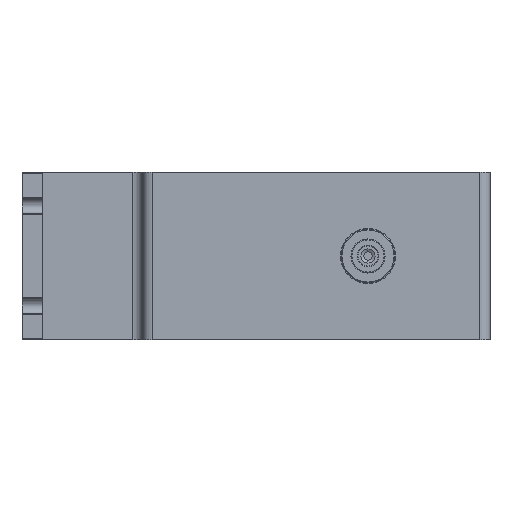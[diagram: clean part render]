
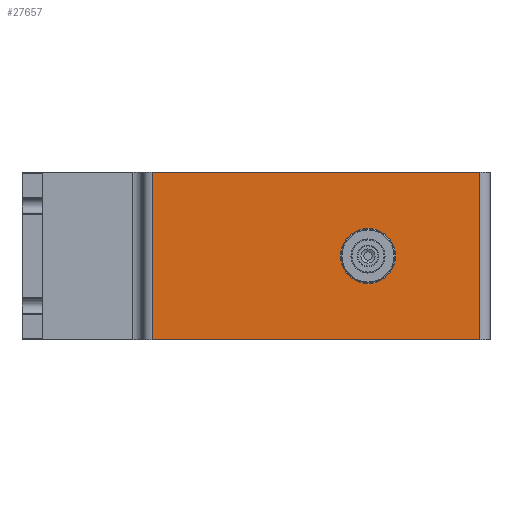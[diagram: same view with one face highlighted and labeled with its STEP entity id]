
A CAD part, front view. The second image highlights one B-rep face of the part: STEP entity #27657.
In plain terms, the highlighted planar face has unit normal (0, -1, 0).
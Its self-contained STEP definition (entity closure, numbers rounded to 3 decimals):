
#167 = CIRCLE ( 'NONE', #5730, 8.25 ) ;
#816 = CARTESIAN_POINT ( 'NONE',  ( 67., -120., -25. ) ) ;
#1891 = CARTESIAN_POINT ( 'NONE',  ( -70., -120., 25. ) ) ;
#2406 = VECTOR ( 'NONE', #30696, 1000. ) ;
#3240 = VECTOR ( 'NONE', #30558, 1000. ) ;
#4098 = LINE ( 'NONE', #16724, #8914 ) ;
#4293 = EDGE_CURVE ( 'NONE', #7722, #27768, #7664, .T. ) ;
#5033 = VERTEX_POINT ( 'NONE', #24065 ) ;
#5730 = AXIS2_PLACEMENT_3D ( 'NONE', #14833, #41431, #24892 ) ;
#5796 = DIRECTION ( 'NONE',  ( 0., 0., 1. ) ) ;
#5835 = ORIENTED_EDGE ( 'NONE', *, *, #4293, .F. ) ;
#6025 = FACE_OUTER_BOUND ( 'NONE', #25884, .T. ) ;
#7664 = LINE ( 'NONE', #40783, #3240 ) ;
#7722 = VERTEX_POINT ( 'NONE', #816 ) ;
#8914 = VECTOR ( 'NONE', #17368, 1000. ) ;
#9753 = ORIENTED_EDGE ( 'NONE', *, *, #30737, .F. ) ;
#10368 = CARTESIAN_POINT ( 'NONE',  ( -31., -120., -25. ) ) ;
#11677 = EDGE_CURVE ( 'NONE', #27768, #5033, #40095, .T. ) ;
#13202 = EDGE_LOOP ( 'NONE', ( #9753, #22088 ) ) ;
#13810 = CARTESIAN_POINT ( 'NONE',  ( 33.5, -120., 0. ) ) ;
#14181 = CIRCLE ( 'NONE', #19767, 8.25 ) ;
#14607 = ORIENTED_EDGE ( 'NONE', *, *, #38716, .F. ) ;
#14833 = CARTESIAN_POINT ( 'NONE',  ( 33.5, -120., 0. ) ) ;
#16320 = CARTESIAN_POINT ( 'NONE',  ( 67., -120., 25. ) ) ;
#16519 = LINE ( 'NONE', #20013, #29188 ) ;
#16724 = CARTESIAN_POINT ( 'NONE',  ( 67., -120., 25. ) ) ;
#16736 = ORIENTED_EDGE ( 'NONE', *, *, #11677, .F. ) ;
#17287 = CARTESIAN_POINT ( 'NONE',  ( 33.5, -120., -8.25 ) ) ;
#17368 = DIRECTION ( 'NONE',  ( 0., 0., -1. ) ) ;
#18441 = PLANE ( 'NONE',  #28661 ) ;
#19767 = AXIS2_PLACEMENT_3D ( 'NONE', #13810, #43020, #39557 ) ;
#20013 = CARTESIAN_POINT ( 'NONE',  ( -70., -120., 25. ) ) ;
#20466 = CARTESIAN_POINT ( 'NONE',  ( -31., -120., -25. ) ) ;
#20794 = EDGE_CURVE ( 'NONE', #25454, #7722, #4098, .T. ) ;
#22088 = ORIENTED_EDGE ( 'NONE', *, *, #28509, .F. ) ;
#22351 = DIRECTION ( 'NONE',  ( 0., 1., 0. ) ) ;
#24065 = CARTESIAN_POINT ( 'NONE',  ( -31., -120., 25. ) ) ;
#24892 = DIRECTION ( 'NONE',  ( 0., 0., -1. ) ) ;
#25454 = VERTEX_POINT ( 'NONE', #16320 ) ;
#25884 = EDGE_LOOP ( 'NONE', ( #16736, #5835, #40119, #14607 ) ) ;
#27657 = ADVANCED_FACE ( 'NONE', ( #35651, #6025 ), #18441, .F. ) ;
#27768 = VERTEX_POINT ( 'NONE', #10368 ) ;
#28509 = EDGE_CURVE ( 'NONE', #29159, #29786, #167, .T. ) ;
#28661 = AXIS2_PLACEMENT_3D ( 'NONE', #1891, #22351, #5796 ) ;
#29159 = VERTEX_POINT ( 'NONE', #34961 ) ;
#29188 = VECTOR ( 'NONE', #39637, 1000. ) ;
#29786 = VERTEX_POINT ( 'NONE', #17287 ) ;
#30558 = DIRECTION ( 'NONE',  ( -1., 0., 0. ) ) ;
#30696 = DIRECTION ( 'NONE',  ( 0., 0., 1. ) ) ;
#30737 = EDGE_CURVE ( 'NONE', #29786, #29159, #14181, .T. ) ;
#34961 = CARTESIAN_POINT ( 'NONE',  ( 33.5, -120., 8.25 ) ) ;
#35651 = FACE_BOUND ( 'NONE', #13202, .T. ) ;
#38716 = EDGE_CURVE ( 'NONE', #5033, #25454, #16519, .T. ) ;
#39557 = DIRECTION ( 'NONE',  ( 0., 0., -1. ) ) ;
#39637 = DIRECTION ( 'NONE',  ( 1., 0., 0. ) ) ;
#40095 = LINE ( 'NONE', #20466, #2406 ) ;
#40119 = ORIENTED_EDGE ( 'NONE', *, *, #20794, .F. ) ;
#40783 = CARTESIAN_POINT ( 'NONE',  ( 0., -120., -25. ) ) ;
#41431 = DIRECTION ( 'NONE',  ( 0., -1., 0. ) ) ;
#43020 = DIRECTION ( 'NONE',  ( 0., -1., 0. ) ) ;
